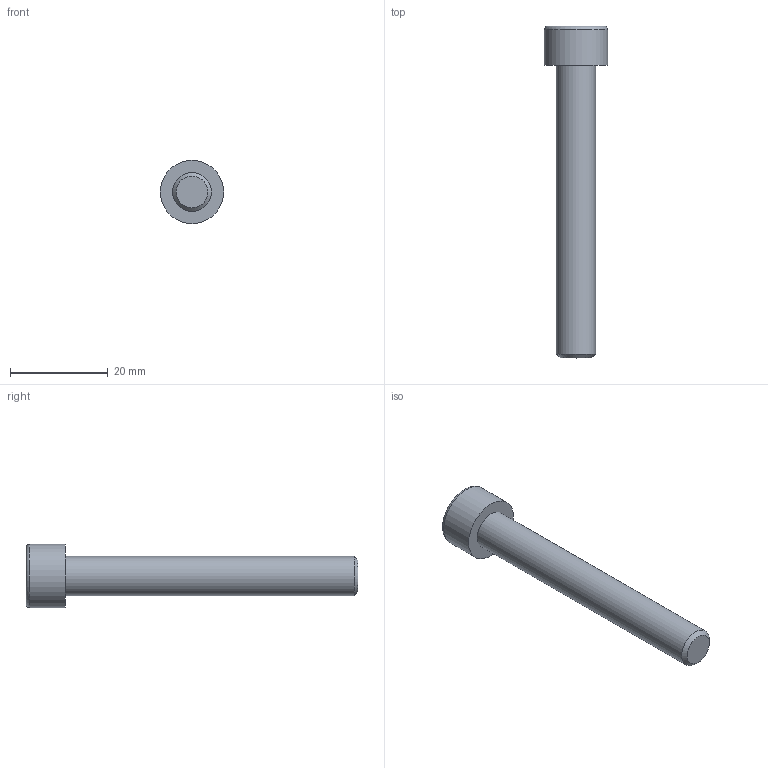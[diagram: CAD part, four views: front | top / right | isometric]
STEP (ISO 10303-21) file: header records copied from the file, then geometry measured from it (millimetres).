
FILE_DESCRIPTION(/* description */ (''),/* implementation_level */ '2;1');
FILE_NAME(/* name */ 'C:\Users\D\Documents\Inventor\各種小物\JIS\JIS B 1176 六角穴付きボルト\M8x60.stp',/* time_stamp */ '2022-05-09T18:52:25+09:00',/* author */ ('D'),/* organization */ (''),/* preprocessor_version */ 'ST-DEVELOPER v18',/* originating_system */ 'Autodesk Inventor 2020',/* authorisation */ '');
FILE_SCHEMA (('AUTOMOTIVE_DESIGN { 1 0 10303 214 3 1 1 }'));
Length unit declared in the file: millimetre
Products named in the file (1): M1.6x2.5
Bounding box: 13 x 68 x 13 mm (x, y, z)
Volume: 3916.2 mm3; surface area: 2165.4 mm2
Topology: 1 solids, 1 shells, 14 faces, 33 edges, 22 vertices
Faces by surface type: plane 9, cone 2, cylinder 2, torus 1
Full cylindrical faces by diameter (mm): 8 x1, 13 x1
Entity records: 435 total; most frequent: CARTESIAN_POINT 83, ORIENTED_EDGE 64, DIRECTION 64, EDGE_CURVE 32, AXIS2_PLACEMENT_3D 24, VERTEX_POINT 22, EDGE_LOOP 16, LINE 16
